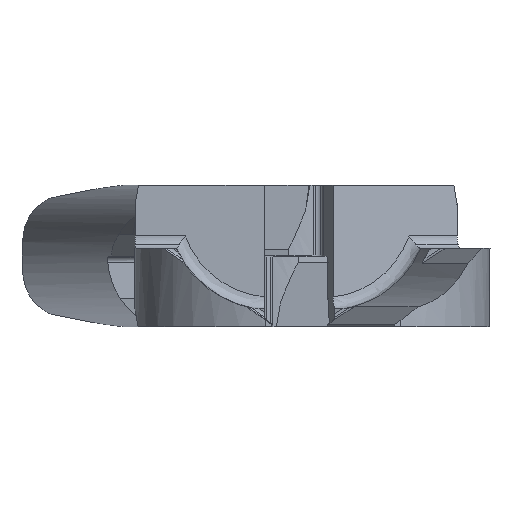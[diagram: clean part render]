
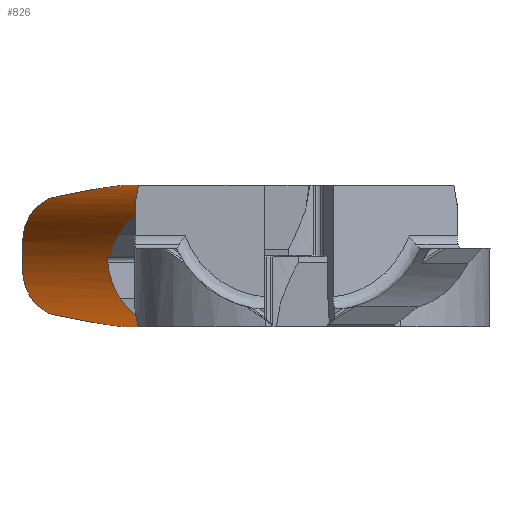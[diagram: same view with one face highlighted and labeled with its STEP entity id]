
A CAD part, left-side view. The second image highlights one B-rep face of the part: STEP entity #826.
In plain terms, the highlighted cylindrical face has radius 8.496 mm (diameter 16.993 mm), a partial arc.
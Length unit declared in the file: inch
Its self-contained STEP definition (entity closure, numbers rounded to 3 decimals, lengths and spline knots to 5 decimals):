
#291=CARTESIAN_POINT('',(0.27833,-0.66138,-0.30496));
#292=VERTEX_POINT('',#291);
#301=CARTESIAN_POINT('',(0.28889,-0.65884,-0.28375));
#302=VERTEX_POINT('',#301);
#303=CARTESIAN_POINT('',(0.27833,-0.66138,-0.30496));
#304=CARTESIAN_POINT('',(0.27851,-0.66136,-0.3048));
#305=CARTESIAN_POINT('',(0.2787,-0.66133,-0.30464));
#306=CARTESIAN_POINT('',(0.28167,-0.66089,-0.30194));
#307=CARTESIAN_POINT('',(0.28422,-0.66046,-0.2987));
#308=CARTESIAN_POINT('',(0.28775,-0.65962,-0.2915));
#309=CARTESIAN_POINT('',(0.28874,-0.65921,-0.28753));
#310=CARTESIAN_POINT('',(0.28889,-0.65884,-0.28375));
#311=B_SPLINE_CURVE_WITH_KNOTS('',3,(#303,#304,#305,#306,#307,#308,#309,#310),.UNSPECIFIED.,.F.,.U.,(4,2,2,4),(0.12394,0.12467,0.13607,0.14748),.UNSPECIFIED.);
#312=EDGE_CURVE('',#292,#302,#311,.T.);
#659=CARTESIAN_POINT('',(2.91041,-0.19769,-0.04191));
#660=VERTEX_POINT('',#659);
#667=CARTESIAN_POINT('',(2.98724,-0.26566,-0.11869));
#668=VERTEX_POINT('',#667);
#669=CARTESIAN_POINT('',(2.7155,-0.02524,-0.31375));
#670=DIRECTION('',(0.663,0.749,0.0));
#671=DIRECTION('',(0.749,-0.663,0.0));
#672=AXIS2_PLACEMENT_3D('',#669,#670,#671);
#673=ELLIPSE('',#672,0.44662,0.3345);
#674=EDGE_CURVE('',#660,#668,#673,.T.);
#688=CARTESIAN_POINT('',(2.7897,-0.01613,-0.31375));
#689=DIRECTION('',(0.993,0.122,0.0));
#690=DIRECTION('',(0.0,0.0,1.0));
#691=AXIS2_PLACEMENT_3D('',#688,#689,#690);
#692=CYLINDRICAL_SURFACE('',#691,0.3345);
#693=CARTESIAN_POINT('',(0.31753,-0.58971,-0.11361));
#694=VERTEX_POINT('',#693);
#695=CARTESIAN_POINT('',(0.46239,-0.30189,0.02075));
#696=VERTEX_POINT('',#695);
#697=CARTESIAN_POINT('',(0.39513,-0.31015,-0.31375));
#698=DIRECTION('',(-0.91,0.377,0.174));
#699=DIRECTION('',(0.413,0.864,0.289));
#700=AXIS2_PLACEMENT_3D('',#697,#698,#699);
#701=ELLIPSE('',#700,0.39025,0.3345);
#702=EDGE_CURVE('',#694,#696,#701,.T.);
#703=ORIENTED_EDGE('',*,*,#702,.F.);
#704=CARTESIAN_POINT('',(0.43537,-0.3052,-0.31375));
#705=DIRECTION('',(-0.924,0.383,0.0));
#706=DIRECTION('',(-0.383,-0.924,0.0));
#707=AXIS2_PLACEMENT_3D('',#704,#705,#706);
#708=ELLIPSE('',#707,0.38433,0.3345);
#709=EDGE_CURVE('',#302,#694,#708,.T.);
#710=ORIENTED_EDGE('',*,*,#709,.F.);
#711=ORIENTED_EDGE('',*,*,#312,.F.);
#712=CARTESIAN_POINT('',(0.25409,-0.66448,-0.31375));
#713=VERTEX_POINT('',#712);
#714=CARTESIAN_POINT('',(0.25409,-0.66448,-0.31375));
#715=CARTESIAN_POINT('',(0.2584,-0.66395,-0.31375));
#716=CARTESIAN_POINT('',(0.26304,-0.66338,-0.31299));
#717=CARTESIAN_POINT('',(0.27143,-0.66233,-0.3099));
#718=CARTESIAN_POINT('',(0.27523,-0.66184,-0.30765));
#719=CARTESIAN_POINT('',(0.27833,-0.66138,-0.30496));
#720=B_SPLINE_CURVE_WITH_KNOTS('',3,(#714,#715,#716,#717,#718,#719),.UNSPECIFIED.,.F.,.U.,(4,2,4),(0.0986,0.11163,0.12394),.UNSPECIFIED.);
#721=EDGE_CURVE('',#713,#292,#720,.T.);
#722=ORIENTED_EDGE('',*,*,#721,.F.);
#723=CARTESIAN_POINT('',(0.16838,-0.675,-0.31375));
#724=VERTEX_POINT('',#723);
#725=CARTESIAN_POINT('',(0.16838,-0.675,-0.31375));
#726=DIRECTION('',(0.993,0.122,0.0));
#727=VECTOR('',#726,0.08635);
#728=LINE('',#725,#727);
#729=EDGE_CURVE('',#724,#713,#728,.T.);
#730=ORIENTED_EDGE('',*,*,#729,.F.);
#731=CARTESIAN_POINT('',(0.04055,-0.675,-0.41464));
#732=VERTEX_POINT('',#731);
#733=CARTESIAN_POINT('',(-2.57636,-0.675,-0.31375));
#734=DIRECTION('',(0.0,-1.0,0.0));
#735=DIRECTION('',(1.0,0.0,0.0));
#736=AXIS2_PLACEMENT_3D('',#733,#734,#735);
#737=ELLIPSE('',#736,2.74474,0.3345);
#738=EDGE_CURVE('',#732,#724,#737,.T.);
#739=ORIENTED_EDGE('',*,*,#738,.F.);
#740=CARTESIAN_POINT('',(-0.19656,-0.65899,-0.50542));
#741=VERTEX_POINT('',#740);
#742=CARTESIAN_POINT('',(-2.72125,-0.69279,-0.31375));
#743=DIRECTION('',(0.,-0.985,-0.174));
#744=DIRECTION('',(-1.,-0.004,0.021));
#745=AXIS2_PLACEMENT_3D('',#742,#743,#744);
#746=ELLIPSE('',#745,2.78708,0.3345);
#747=EDGE_CURVE('',#741,#732,#746,.T.);
#748=ORIENTED_EDGE('',*,*,#747,.F.);
#749=CARTESIAN_POINT('',(-0.65378,-0.43894,-0.64825));
#750=VERTEX_POINT('',#749);
#751=CARTESIAN_POINT('',(-0.65378,-0.43894,-0.64825));
#752=CARTESIAN_POINT('',(-0.62959,-0.46413,-0.64825));
#753=CARTESIAN_POINT('',(-0.60377,-0.48772,-0.64476));
#754=CARTESIAN_POINT('',(-0.525,-0.55036,-0.62725));
#755=CARTESIAN_POINT('',(-0.46944,-0.58353,-0.6068));
#756=CARTESIAN_POINT('',(-0.33714,-0.64022,-0.55379));
#757=CARTESIAN_POINT('',(-0.26375,-0.65624,-0.52105));
#758=CARTESIAN_POINT('',(-0.19656,-0.65899,-0.50542));
#759=B_SPLINE_CURVE_WITH_KNOTS('',3,(#751,#752,#753,#754,#755,#756,#757,#758),.UNSPECIFIED.,.F.,.U.,(4,2,2,4),(0.18121,0.28613,0.48545,0.74205),.UNSPECIFIED.);
#760=EDGE_CURVE('',#750,#741,#759,.T.);
#761=ORIENTED_EDGE('',*,*,#760,.F.);
#762=CARTESIAN_POINT('',(1.65933,-0.15492,-0.64825));
#763=VERTEX_POINT('',#762);
#764=CARTESIAN_POINT('',(1.65933,-0.15492,-0.64825));
#765=DIRECTION('',(-0.993,-0.122,0.));
#766=VECTOR('',#765,2.33048);
#767=LINE('',#764,#766);
#768=EDGE_CURVE('',#763,#750,#767,.T.);
#769=ORIENTED_EDGE('',*,*,#768,.F.);
#770=CARTESIAN_POINT('',(2.91041,-0.19769,-0.58559));
#771=VERTEX_POINT('',#770);
#772=CARTESIAN_POINT('',(8.33844,0.66517,-0.31375));
#773=DIRECTION('',(0.05,0.,-0.999));
#774=DIRECTION('',(0.991,0.122,0.05));
#775=AXIS2_PLACEMENT_3D('',#772,#773,#774);
#776=ELLIPSE('',#775,6.7377,0.3345);
#777=EDGE_CURVE('',#771,#763,#776,.T.);
#778=ORIENTED_EDGE('',*,*,#777,.F.);
#779=CARTESIAN_POINT('',(2.98724,-0.26566,-0.50881));
#780=VERTEX_POINT('',#779);
#781=CARTESIAN_POINT('',(2.7155,-0.02524,-0.31375));
#782=DIRECTION('',(0.663,0.749,0.0));
#783=DIRECTION('',(0.749,-0.663,0.0));
#784=AXIS2_PLACEMENT_3D('',#781,#782,#783);
#785=ELLIPSE('',#784,0.44662,0.3345);
#786=EDGE_CURVE('',#780,#771,#785,.T.);
#787=ORIENTED_EDGE('',*,*,#786,.F.);
#788=CARTESIAN_POINT('',(2.83047,-0.34814,-0.31375));
#789=VERTEX_POINT('',#788);
#790=CARTESIAN_POINT('',(2.83047,-0.34814,-0.31375));
#791=CARTESIAN_POINT('',(2.86228,-0.34423,-0.35082));
#792=CARTESIAN_POINT('',(2.89605,-0.33358,-0.39106));
#793=CARTESIAN_POINT('',(2.94899,-0.30238,-0.45738));
#794=CARTESIAN_POINT('',(2.96961,-0.28558,-0.48425));
#795=CARTESIAN_POINT('',(2.98724,-0.26566,-0.50881));
#796=B_SPLINE_CURVE_WITH_KNOTS('',3,(#790,#791,#792,#793,#794,#795),.UNSPECIFIED.,.F.,.U.,(4,2,4),(0.0,0.147,0.25209),.UNSPECIFIED.);
#797=EDGE_CURVE('',#789,#780,#796,.T.);
#798=ORIENTED_EDGE('',*,*,#797,.F.);
#799=CARTESIAN_POINT('',(2.98724,-0.26566,-0.11869));
#800=CARTESIAN_POINT('',(2.96961,-0.28558,-0.14325));
#801=CARTESIAN_POINT('',(2.94899,-0.30238,-0.17012));
#802=CARTESIAN_POINT('',(2.89605,-0.33358,-0.23644));
#803=CARTESIAN_POINT('',(2.86228,-0.34423,-0.27668));
#804=CARTESIAN_POINT('',(2.83047,-0.34814,-0.31375));
#805=B_SPLINE_CURVE_WITH_KNOTS('',3,(#799,#800,#801,#802,#803,#804),.UNSPECIFIED.,.F.,.U.,(4,2,4),(1.50078,1.60586,1.75287),.UNSPECIFIED.);
#806=EDGE_CURVE('',#668,#789,#805,.T.);
#807=ORIENTED_EDGE('',*,*,#806,.F.);
#808=ORIENTED_EDGE('',*,*,#674,.F.);
#809=CARTESIAN_POINT('',(1.65933,-0.15492,0.02075));
#810=VERTEX_POINT('',#809);
#811=CARTESIAN_POINT('',(8.33844,0.66517,-0.31375));
#812=DIRECTION('',(0.05,0.,0.999));
#813=DIRECTION('',(-0.991,-0.122,0.05));
#814=AXIS2_PLACEMENT_3D('',#811,#812,#813);
#815=ELLIPSE('',#814,6.7377,0.3345);
#816=EDGE_CURVE('',#810,#660,#815,.T.);
#817=ORIENTED_EDGE('',*,*,#816,.F.);
#818=CARTESIAN_POINT('',(1.65933,-0.15492,0.02075));
#819=DIRECTION('',(-0.993,-0.122,0.0));
#820=VECTOR('',#819,1.20593);
#821=LINE('',#818,#820);
#822=EDGE_CURVE('',#810,#696,#821,.T.);
#823=ORIENTED_EDGE('',*,*,#822,.T.);
#824=EDGE_LOOP('',(#703,#710,#711,#722,#730,#739,#748,#761,#769,#778,#787,#798,#807,#808,#817,#823));
#825=FACE_OUTER_BOUND('',#824,.T.);
#826=ADVANCED_FACE('',(#825),#692,.T.);
